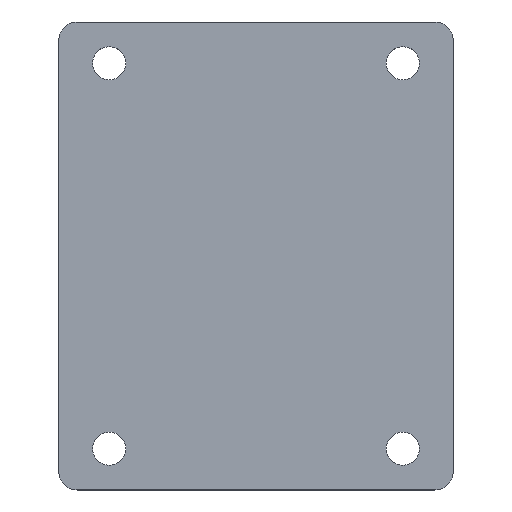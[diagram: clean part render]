
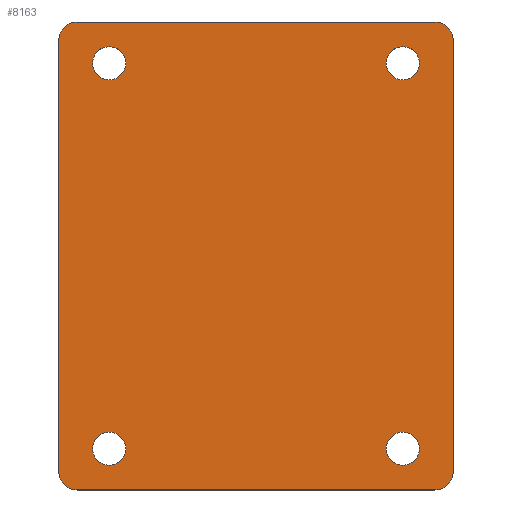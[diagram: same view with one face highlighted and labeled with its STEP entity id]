
A CAD part, top view. The second image highlights one B-rep face of the part: STEP entity #8163.
In plain terms, the highlighted planar face has unit normal (0, 0, 1).
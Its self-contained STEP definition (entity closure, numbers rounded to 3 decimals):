
#7636=CARTESIAN_POINT('',(16.765,2.742,55.049));
#7637=VERTEX_POINT('',#7636);
#7638=CARTESIAN_POINT('',(16.765,-6.258,55.049));
#7639=DIRECTION('',(0.0,0.0,1.0));
#7640=DIRECTION('',(0.0,-1.0,0.0));
#7641=AXIS2_PLACEMENT_3D('',#7638,#7639,#7640);
#7642=CIRCLE('',#7641,9.0);
#7643=EDGE_CURVE('',#7637,#7637,#7642,.T.);
#7664=CARTESIAN_POINT('',(-143.235,2.742,55.049));
#7665=VERTEX_POINT('',#7664);
#7666=CARTESIAN_POINT('',(-143.235,-6.258,55.049));
#7667=DIRECTION('',(0.0,0.0,1.0));
#7668=DIRECTION('',(0.0,-1.0,0.0));
#7669=AXIS2_PLACEMENT_3D('',#7666,#7667,#7668);
#7670=CIRCLE('',#7669,9.0);
#7671=EDGE_CURVE('',#7665,#7665,#7670,.T.);
#7692=CARTESIAN_POINT('',(16.765,212.742,55.049));
#7693=VERTEX_POINT('',#7692);
#7694=CARTESIAN_POINT('',(16.765,203.742,55.049));
#7695=DIRECTION('',(0.0,0.0,1.0));
#7696=DIRECTION('',(0.0,-1.0,0.0));
#7697=AXIS2_PLACEMENT_3D('',#7694,#7695,#7696);
#7698=CIRCLE('',#7697,9.0);
#7699=EDGE_CURVE('',#7693,#7693,#7698,.T.);
#7720=CARTESIAN_POINT('',(-143.235,212.742,55.049));
#7721=VERTEX_POINT('',#7720);
#7722=CARTESIAN_POINT('',(-143.235,203.742,55.049));
#7723=DIRECTION('',(0.0,0.0,1.0));
#7724=DIRECTION('',(0.0,-1.0,0.0));
#7725=AXIS2_PLACEMENT_3D('',#7722,#7723,#7724);
#7726=CIRCLE('',#7725,9.0);
#7727=EDGE_CURVE('',#7721,#7721,#7726,.T.);
#7811=CARTESIAN_POINT('',(44.265,-18.758,55.049));
#7812=VERTEX_POINT('',#7811);
#7813=CARTESIAN_POINT('',(34.265,-28.758,55.049));
#7814=VERTEX_POINT('',#7813);
#7815=CARTESIAN_POINT('',(34.265,-18.758,55.049));
#7816=DIRECTION('',(0.0,0.0,-1.));
#7817=DIRECTION('',(0.707,-0.707,0.0));
#7818=AXIS2_PLACEMENT_3D('',#7815,#7816,#7817);
#7819=CIRCLE('',#7818,10.);
#7820=EDGE_CURVE('',#7812,#7814,#7819,.T.);
#7862=CARTESIAN_POINT('',(44.265,216.242,55.049));
#7863=VERTEX_POINT('',#7862);
#7870=CARTESIAN_POINT('',(44.265,216.242,55.049));
#7871=DIRECTION('',(0.0,-1.0,0.0));
#7872=VECTOR('',#7871,235.);
#7873=LINE('',#7870,#7872);
#7874=EDGE_CURVE('',#7863,#7812,#7873,.T.);
#8001=CARTESIAN_POINT('',(34.265,226.242,55.049));
#8002=VERTEX_POINT('',#8001);
#8003=CARTESIAN_POINT('',(34.265,216.242,55.049));
#8004=DIRECTION('',(0.0,0.0,-1.));
#8005=DIRECTION('',(0.707,0.707,0.0));
#8006=AXIS2_PLACEMENT_3D('',#8003,#8004,#8005);
#8007=CIRCLE('',#8006,10.);
#8008=EDGE_CURVE('',#8002,#7863,#8007,.T.);
#8028=CARTESIAN_POINT('',(-160.735,226.242,55.049));
#8029=VERTEX_POINT('',#8028);
#8036=CARTESIAN_POINT('',(-160.735,226.242,55.049));
#8037=DIRECTION('',(1.0,0.0,0.0));
#8038=VECTOR('',#8037,195.);
#8039=LINE('',#8036,#8038);
#8040=EDGE_CURVE('',#8029,#8002,#8039,.T.);
#8050=CARTESIAN_POINT('',(-160.735,-28.758,55.049));
#8051=VERTEX_POINT('',#8050);
#8052=CARTESIAN_POINT('',(-170.735,-18.758,55.049));
#8053=VERTEX_POINT('',#8052);
#8054=CARTESIAN_POINT('',(-160.735,-18.758,55.049));
#8055=DIRECTION('',(0.0,0.0,-1.));
#8056=DIRECTION('',(-0.707,-0.707,0.0));
#8057=AXIS2_PLACEMENT_3D('',#8054,#8055,#8056);
#8058=CIRCLE('',#8057,10.);
#8059=EDGE_CURVE('',#8051,#8053,#8058,.T.);
#8083=CARTESIAN_POINT('',(34.265,-28.758,55.049));
#8084=DIRECTION('',(-1.0,0.0,0.0));
#8085=VECTOR('',#8084,195.);
#8086=LINE('',#8083,#8085);
#8087=EDGE_CURVE('',#7814,#8051,#8086,.T.);
#8099=CARTESIAN_POINT('',(-170.735,216.242,55.049));
#8100=VERTEX_POINT('',#8099);
#8101=CARTESIAN_POINT('',(-160.735,216.242,55.049));
#8102=DIRECTION('',(0.0,0.0,-1.));
#8103=DIRECTION('',(-0.707,0.707,0.0));
#8104=AXIS2_PLACEMENT_3D('',#8101,#8102,#8103);
#8105=CIRCLE('',#8104,10.);
#8106=EDGE_CURVE('',#8100,#8029,#8105,.T.);
#8125=CARTESIAN_POINT('',(-170.735,-18.758,55.049));
#8126=DIRECTION('',(0.0,1.0,0.0));
#8127=VECTOR('',#8126,235.);
#8128=LINE('',#8125,#8127);
#8129=EDGE_CURVE('',#8053,#8100,#8128,.T.);
#8136=CARTESIAN_POINT('',(-63.235,98.742,55.049));
#8137=DIRECTION('',(0.0,0.0,1.0));
#8138=DIRECTION('',(0.0,-1.0,0.0));
#8139=AXIS2_PLACEMENT_3D('',#8136,#8137,#8138);
#8140=PLANE('',#8139);
#8141=ORIENTED_EDGE('',*,*,#7820,.F.);
#8142=ORIENTED_EDGE('',*,*,#7874,.F.);
#8143=ORIENTED_EDGE('',*,*,#8008,.F.);
#8144=ORIENTED_EDGE('',*,*,#8040,.F.);
#8145=ORIENTED_EDGE('',*,*,#8106,.F.);
#8146=ORIENTED_EDGE('',*,*,#8129,.F.);
#8147=ORIENTED_EDGE('',*,*,#8059,.F.);
#8148=ORIENTED_EDGE('',*,*,#8087,.F.);
#8149=EDGE_LOOP('',(#8141,#8142,#8143,#8144,#8145,#8146,#8147,#8148));
#8150=FACE_OUTER_BOUND('',#8149,.T.);
#8151=ORIENTED_EDGE('',*,*,#7643,.F.);
#8152=EDGE_LOOP('',(#8151));
#8153=FACE_BOUND('',#8152,.T.);
#8154=ORIENTED_EDGE('',*,*,#7671,.F.);
#8155=EDGE_LOOP('',(#8154));
#8156=FACE_BOUND('',#8155,.T.);
#8157=ORIENTED_EDGE('',*,*,#7699,.F.);
#8158=EDGE_LOOP('',(#8157));
#8159=FACE_BOUND('',#8158,.T.);
#8160=ORIENTED_EDGE('',*,*,#7727,.F.);
#8161=EDGE_LOOP('',(#8160));
#8162=FACE_BOUND('',#8161,.T.);
#8163=ADVANCED_FACE('',(#8150,#8153,#8156,#8159,#8162),#8140,.T.);
